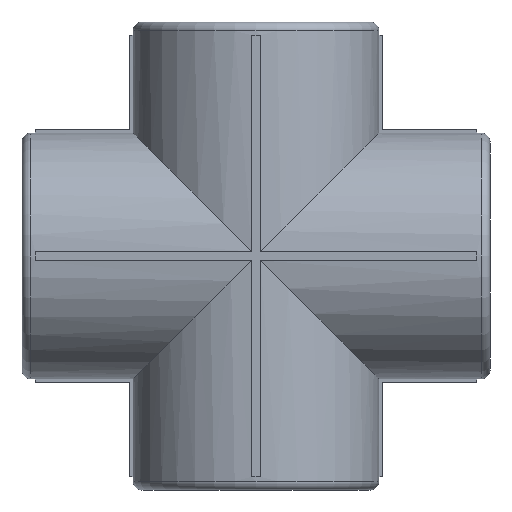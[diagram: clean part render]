
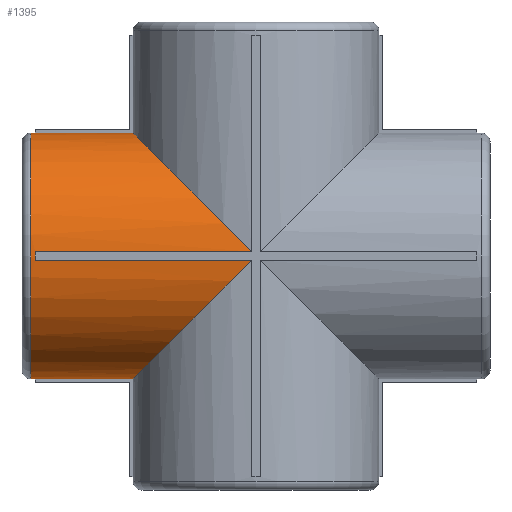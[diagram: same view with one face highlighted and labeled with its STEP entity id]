
A CAD part, front view. The second image highlights one B-rep face of the part: STEP entity #1395.
In plain terms, the highlighted cylindrical face has radius 13.9 mm (diameter 27.8 mm), a partial arc.
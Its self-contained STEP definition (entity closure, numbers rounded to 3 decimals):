
#106 = CARTESIAN_POINT ( 'NONE',  ( 26.45, -0.5, 13.891 ) ) ;
#155 = CYLINDRICAL_SURFACE ( 'NONE', #2201, 13.9 ) ;
#174 = CARTESIAN_POINT ( 'NONE',  ( 26.45, 0., 0. ) ) ;
#180 = EDGE_CURVE ( 'NONE', #1028, #2463, #2993, .T. ) ;
#198 = ORIENTED_EDGE ( 'NONE', *, *, #180, .F. ) ;
#218 = AXIS2_PLACEMENT_3D ( 'NONE', #1947, #1418, #1932 ) ;
#346 = EDGE_CURVE ( 'NONE', #2289, #2467, #868, .T. ) ;
#393 = CARTESIAN_POINT ( 'NONE',  ( -0.5, -13.891, -0.5 ) ) ;
#409 = CARTESIAN_POINT ( 'NONE',  ( -24.95, 0., 0. ) ) ;
#468 = CARTESIAN_POINT ( 'NONE',  ( -0.5, -13.891, -0.5 ) ) ;
#495 = CARTESIAN_POINT ( 'NONE',  ( -24.95, 0., 0. ) ) ;
#538 = CARTESIAN_POINT ( 'NONE',  ( -24.95, 0., 13.9 ) ) ;
#540 =( BOUNDED_CURVE ( )  B_SPLINE_CURVE ( 3, ( #2179, #1009, #1465, #2745 ),
 .UNSPECIFIED., .F., .F. ) 
 B_SPLINE_CURVE_WITH_KNOTS ( ( 4, 4 ),
 ( 1.607, 3.106 ),
 .UNSPECIFIED. ) 
 CURVE ( )  GEOMETRIC_REPRESENTATION_ITEM ( )  RATIONAL_B_SPLINE_CURVE ( ( 1., 0.821, 0.821, 1. ) ) 
 REPRESENTATION_ITEM ( '' )  );
#546 = CARTESIAN_POINT ( 'NONE',  ( 26.45, 0., -13.9 ) ) ;
#554 = CARTESIAN_POINT ( 'NONE',  ( -24.95, -0.5, -13.891 ) ) ;
#646 = EDGE_CURVE ( 'NONE', #1262, #1028, #1121, .T. ) ;
#683 = LINE ( 'NONE', #2297, #1823 ) ;
#692 = EDGE_LOOP ( 'NONE', ( #198, #1267, #882, #861, #3057, #2086, #994, #3073, #1519, #2408, #728, #2555 ) ) ;
#720 = DIRECTION ( 'NONE',  ( 0., 0., -1. ) ) ;
#728 = ORIENTED_EDGE ( 'NONE', *, *, #2305, .T. ) ;
#771 = EDGE_CURVE ( 'NONE', #2467, #1843, #540, .T. ) ;
#828 = DIRECTION ( 'NONE',  ( -1., 0., 0. ) ) ;
#849 = CARTESIAN_POINT ( 'NONE',  ( 26.45, 0., 13.9 ) ) ;
#861 = ORIENTED_EDGE ( 'NONE', *, *, #2799, .T. ) ;
#868 = LINE ( 'NONE', #2338, #2967 ) ;
#882 = ORIENTED_EDGE ( 'NONE', *, *, #2225, .F. ) ;
#917 = CARTESIAN_POINT ( 'NONE',  ( -24.95, -13.891, -0.5 ) ) ;
#922 = LINE ( 'NONE', #1916, #2637 ) ;
#960 = VERTEX_POINT ( 'NONE', #1226 ) ;
#984 = CARTESIAN_POINT ( 'NONE',  ( -0.5, -13.891, 0.5 ) ) ;
#994 = ORIENTED_EDGE ( 'NONE', *, *, #346, .T. ) ;
#1009 = CARTESIAN_POINT ( 'NONE',  ( -8.18, -13.615, 8.18 ) ) ;
#1028 = VERTEX_POINT ( 'NONE', #1077 ) ;
#1073 = VECTOR ( 'NONE', #1563, 1000. ) ;
#1077 = CARTESIAN_POINT ( 'NONE',  ( -24.95, 0., -13.9 ) ) ;
#1087 = CIRCLE ( 'NONE', #2287, 13.9 ) ;
#1096 = DIRECTION ( 'NONE',  ( 0., 0., 1. ) ) ;
#1120 = EDGE_CURVE ( 'NONE', #2454, #2463, #2251, .T. ) ;
#1121 = CIRCLE ( 'NONE', #2611, 13.9 ) ;
#1165 = VERTEX_POINT ( 'NONE', #2134 ) ;
#1174 = CARTESIAN_POINT ( 'NONE',  ( -25.45, 0., 0. ) ) ;
#1226 = CARTESIAN_POINT ( 'NONE',  ( -24.95, -0.5, 13.891 ) ) ;
#1262 = VERTEX_POINT ( 'NONE', #554 ) ;
#1267 = ORIENTED_EDGE ( 'NONE', *, *, #646, .F. ) ;
#1287 = LINE ( 'NONE', #849, #1291 ) ;
#1291 = VECTOR ( 'NONE', #828, 1000. ) ;
#1309 = VECTOR ( 'NONE', #2420, 1000. ) ;
#1338 = CARTESIAN_POINT ( 'NONE',  ( -25.45, 0., 13.9 ) ) ;
#1395 = ADVANCED_FACE ( 'NONE', ( #3017 ), #155, .T. ) ;
#1418 = DIRECTION ( 'NONE',  ( -1., 0., 0. ) ) ;
#1465 = CARTESIAN_POINT ( 'NONE',  ( -13.615, -8.18, 13.615 ) ) ;
#1515 = VERTEX_POINT ( 'NONE', #917 ) ;
#1519 = ORIENTED_EDGE ( 'NONE', *, *, #2063, .F. ) ;
#1539 = CIRCLE ( 'NONE', #218, 13.9 ) ;
#1563 = DIRECTION ( 'NONE',  ( -1., 0., 0. ) ) ;
#1597 = DIRECTION ( 'NONE',  ( -1., 0., 0. ) ) ;
#1630 = EDGE_CURVE ( 'NONE', #960, #2985, #1087, .T. ) ;
#1798 = DIRECTION ( 'NONE',  ( 0., 0., 1. ) ) ;
#1823 = VECTOR ( 'NONE', #2571, 1000. ) ;
#1825 = CARTESIAN_POINT ( 'NONE',  ( -13.891, -0.5, -13.891 ) ) ;
#1843 = VERTEX_POINT ( 'NONE', #2363 ) ;
#1851 = DIRECTION ( 'NONE',  ( 1., 0., 0. ) ) ;
#1857 = AXIS2_PLACEMENT_3D ( 'NONE', #1174, #1851, #720 ) ;
#1916 = CARTESIAN_POINT ( 'NONE',  ( 26.45, -13.891, -0.5 ) ) ;
#1932 = DIRECTION ( 'NONE',  ( 0., 0., 1. ) ) ;
#1947 = CARTESIAN_POINT ( 'NONE',  ( -24.95, 0., 0. ) ) ;
#2048 =( BOUNDED_CURVE ( )  B_SPLINE_CURVE ( 3, ( #1825, #2773, #2679, #393 ),
 .UNSPECIFIED., .F., .T. ) 
 B_SPLINE_CURVE_WITH_KNOTS ( ( 4, 4 ),
 ( 0.036, 1.535 ),
 .UNSPECIFIED. ) 
 CURVE ( )  GEOMETRIC_REPRESENTATION_ITEM ( )  RATIONAL_B_SPLINE_CURVE ( ( 1., 0.821, 0.821, 1. ) ) 
 REPRESENTATION_ITEM ( '' )  );
#2063 = EDGE_CURVE ( 'NONE', #960, #1843, #2503, .T. ) ;
#2086 = ORIENTED_EDGE ( 'NONE', *, *, #2544, .T. ) ;
#2115 = CARTESIAN_POINT ( 'NONE',  ( -25.45, 0., -13.9 ) ) ;
#2134 = CARTESIAN_POINT ( 'NONE',  ( -13.891, -0.5, -13.891 ) ) ;
#2135 = DIRECTION ( 'NONE',  ( 1., 0., 0. ) ) ;
#2179 = CARTESIAN_POINT ( 'NONE',  ( -0.5, -13.891, 0.5 ) ) ;
#2201 = AXIS2_PLACEMENT_3D ( 'NONE', #174, #2235, #1798 ) ;
#2225 = EDGE_CURVE ( 'NONE', #1165, #1262, #683, .T. ) ;
#2232 = CARTESIAN_POINT ( 'NONE',  ( -24.95, -13.891, 0.5 ) ) ;
#2235 = DIRECTION ( 'NONE',  ( -1., 0., 0. ) ) ;
#2251 = CIRCLE ( 'NONE', #1857, 13.9 ) ;
#2261 = VERTEX_POINT ( 'NONE', #468 ) ;
#2287 = AXIS2_PLACEMENT_3D ( 'NONE', #409, #1597, #1096 ) ;
#2289 = VERTEX_POINT ( 'NONE', #2232 ) ;
#2297 = CARTESIAN_POINT ( 'NONE',  ( 26.45, -0.5, -13.891 ) ) ;
#2305 = EDGE_CURVE ( 'NONE', #2985, #2454, #1287, .T. ) ;
#2338 = CARTESIAN_POINT ( 'NONE',  ( 26.45, -13.891, 0.5 ) ) ;
#2363 = CARTESIAN_POINT ( 'NONE',  ( -13.891, -0.5, 13.891 ) ) ;
#2408 = ORIENTED_EDGE ( 'NONE', *, *, #1630, .T. ) ;
#2420 = DIRECTION ( 'NONE',  ( 1., 0., 0. ) ) ;
#2454 = VERTEX_POINT ( 'NONE', #1338 ) ;
#2463 = VERTEX_POINT ( 'NONE', #2115 ) ;
#2467 = VERTEX_POINT ( 'NONE', #984 ) ;
#2492 = EDGE_CURVE ( 'NONE', #2261, #1515, #922, .T. ) ;
#2503 = LINE ( 'NONE', #106, #1309 ) ;
#2544 = EDGE_CURVE ( 'NONE', #1515, #2289, #1539, .T. ) ;
#2555 = ORIENTED_EDGE ( 'NONE', *, *, #1120, .T. ) ;
#2571 = DIRECTION ( 'NONE',  ( -1., 0., 0. ) ) ;
#2611 = AXIS2_PLACEMENT_3D ( 'NONE', #495, #2135, #3066 ) ;
#2637 = VECTOR ( 'NONE', #2649, 1000. ) ;
#2649 = DIRECTION ( 'NONE',  ( -1., 0., 0. ) ) ;
#2679 = CARTESIAN_POINT ( 'NONE',  ( -8.18, -13.615, -8.18 ) ) ;
#2745 = CARTESIAN_POINT ( 'NONE',  ( -13.891, -0.5, 13.891 ) ) ;
#2773 = CARTESIAN_POINT ( 'NONE',  ( -13.615, -8.18, -13.615 ) ) ;
#2799 = EDGE_CURVE ( 'NONE', #1165, #2261, #2048, .T. ) ;
#2907 = DIRECTION ( 'NONE',  ( 1., 0., 0. ) ) ;
#2967 = VECTOR ( 'NONE', #2907, 1000. ) ;
#2985 = VERTEX_POINT ( 'NONE', #538 ) ;
#2993 = LINE ( 'NONE', #546, #1073 ) ;
#3017 = FACE_OUTER_BOUND ( 'NONE', #692, .T. ) ;
#3057 = ORIENTED_EDGE ( 'NONE', *, *, #2492, .T. ) ;
#3066 = DIRECTION ( 'NONE',  ( 0., 0., -1. ) ) ;
#3073 = ORIENTED_EDGE ( 'NONE', *, *, #771, .T. ) ;
